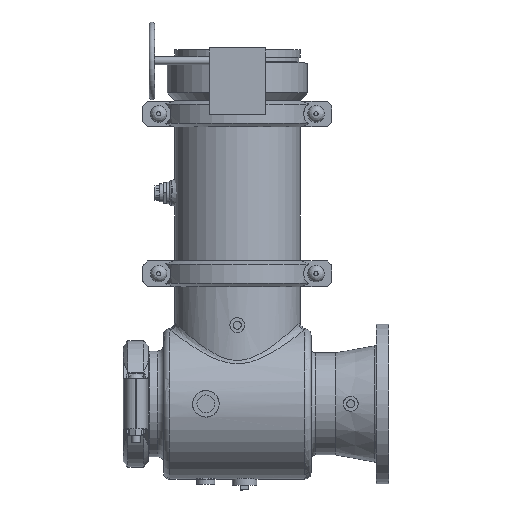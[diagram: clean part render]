
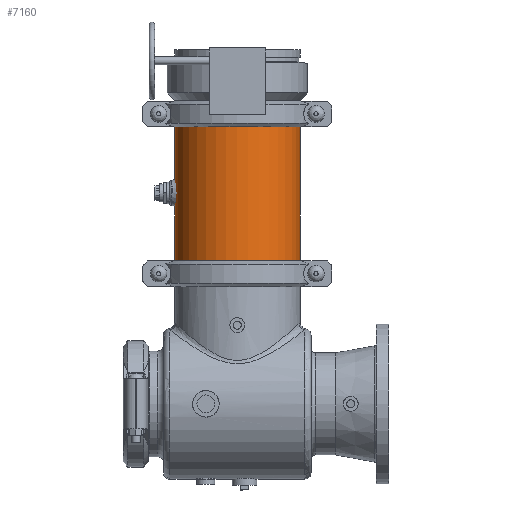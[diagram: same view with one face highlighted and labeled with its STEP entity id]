
A CAD part, top view. The second image highlights one B-rep face of the part: STEP entity #7160.
In plain terms, the highlighted cylindrical face has radius 161.925 mm (diameter 323.85 mm), a full revolution.
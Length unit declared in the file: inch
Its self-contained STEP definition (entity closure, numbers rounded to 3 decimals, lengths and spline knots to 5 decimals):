
#707=FACE_OUTER_BOUND('',#1168,.T.);
#1168=EDGE_LOOP('',(#5418,#5419,#5420,#5421,#5422,#5423));
#1645=CIRCLE('',#7974,6.375);
#1646=CIRCLE('',#7975,6.375);
#1647=CIRCLE('',#7977,6.375);
#1648=CIRCLE('',#7978,6.375);
#2068=LINE('',#12836,#2534);
#2534=VECTOR('',#9463,6.375);
#3123=VERTEX_POINT('',#12827);
#3124=VERTEX_POINT('',#12828);
#3125=VERTEX_POINT('',#12832);
#3126=VERTEX_POINT('',#12833);
#3948=EDGE_CURVE('',#3123,#3124,#1645,.T.);
#3949=EDGE_CURVE('',#3124,#3123,#1646,.T.);
#3950=EDGE_CURVE('',#3125,#3126,#1647,.T.);
#3951=EDGE_CURVE('',#3126,#3125,#1648,.T.);
#3952=EDGE_CURVE('',#3126,#3124,#2068,.T.);
#5418=ORIENTED_EDGE('',*,*,#3950,.F.);
#5419=ORIENTED_EDGE('',*,*,#3951,.F.);
#5420=ORIENTED_EDGE('',*,*,#3952,.T.);
#5421=ORIENTED_EDGE('',*,*,#3949,.T.);
#5422=ORIENTED_EDGE('',*,*,#3948,.T.);
#5423=ORIENTED_EDGE('',*,*,#3952,.F.);
#6509=CYLINDRICAL_SURFACE('',#7976,6.375);
#7160=ADVANCED_FACE('',(#707),#6509,.T.);
#7974=AXIS2_PLACEMENT_3D('',#12829,#9453,#9454);
#7975=AXIS2_PLACEMENT_3D('',#12830,#9455,#9456);
#7976=AXIS2_PLACEMENT_3D('',#12831,#9457,#9458);
#7977=AXIS2_PLACEMENT_3D('',#12834,#9459,#9460);
#7978=AXIS2_PLACEMENT_3D('',#12835,#9461,#9462);
#9453=DIRECTION('center_axis',(0.,-1.,0.));
#9454=DIRECTION('ref_axis',(1.,0.,0.));
#9455=DIRECTION('center_axis',(0.,-1.,0.));
#9456=DIRECTION('ref_axis',(1.,0.,0.));
#9457=DIRECTION('center_axis',(0.,-1.,0.));
#9458=DIRECTION('ref_axis',(1.,0.,0.));
#9459=DIRECTION('center_axis',(0.,-1.,0.));
#9460=DIRECTION('ref_axis',(1.,0.,0.));
#9461=DIRECTION('center_axis',(0.,-1.,0.));
#9462=DIRECTION('ref_axis',(1.,0.,0.));
#9463=DIRECTION('',(0.,1.,0.));
#12827=CARTESIAN_POINT('',(6.375,6.845,0.));
#12828=CARTESIAN_POINT('',(-6.375,6.845,0.));
#12829=CARTESIAN_POINT('Origin',(0.,6.845,
0.));
#12830=CARTESIAN_POINT('Origin',(0.,6.845,
0.));
#12831=CARTESIAN_POINT('Origin',(0.,0.,
0.));
#12832=CARTESIAN_POINT('',(6.375,-6.845,0.));
#12833=CARTESIAN_POINT('',(-6.375,-6.845,0.));
#12834=CARTESIAN_POINT('Origin',(0.,-6.845,0.));
#12835=CARTESIAN_POINT('Origin',(0.,-6.845,0.));
#12836=CARTESIAN_POINT('',(-6.375,0.,0.));
